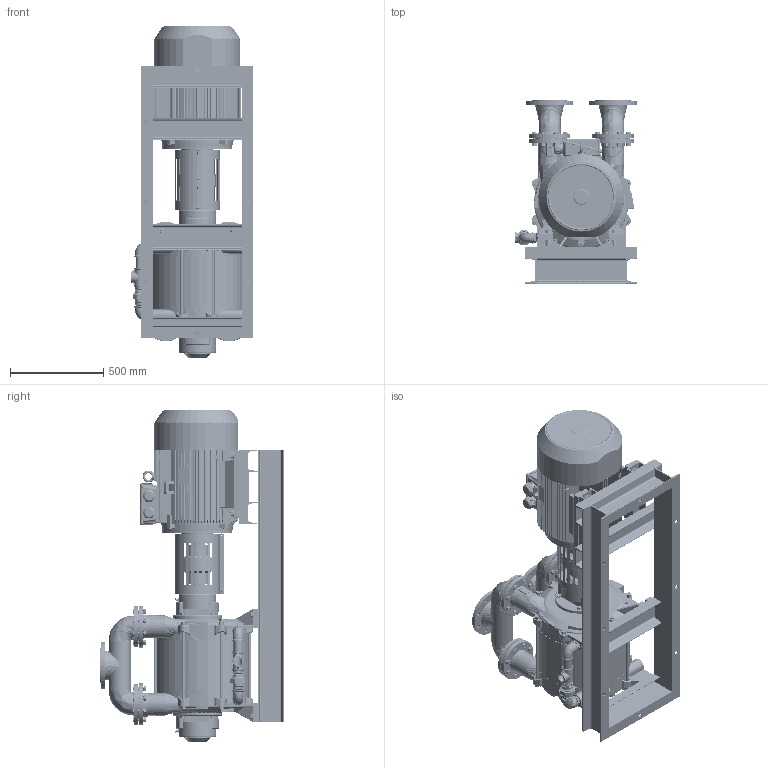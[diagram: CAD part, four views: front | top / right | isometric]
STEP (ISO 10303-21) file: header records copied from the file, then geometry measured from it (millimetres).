
FILE_DESCRIPTION (( 'STEP AP214' ), '1' );
FILE_NAME ('GMVT 410-260 MONTAJ IE3 MOTORLU.STEP', '2024-05-13T10:45:13', ( '' ), ( '' ), 'SwSTEP 2.0', 'SolidWorks 2024', '' );
FILE_SCHEMA (( 'AUTOMOTIVE_DESIGN' ));
Length unit declared in the file: millimetre
Products named in the file (1): GMVT 410-260 MONTAJ IE3 MOTORLU
Bounding box: 656.76 x 983 x 1776 mm (x, y, z)
Volume: 242880334.2 mm3; surface area: 11816823.9 mm2
Topology: 157 solids, 183 shells, 10455 faces, 26531 edges, 16438 vertices
Faces by surface type: plane 3496, cylinder 2623, bspline 1966, cone 1949, torus 341, sphere 80
Entity records: 740896 total; most frequent: CARTESIAN_POINT 512924, ORIENTED_EDGE 52484, DIRECTION 38437, EDGE_CURVE 26242, VERTEX_POINT 16401, AXIS2_PLACEMENT_3D 14583, EDGE_LOOP 11187, ADVANCED_FACE 10455
